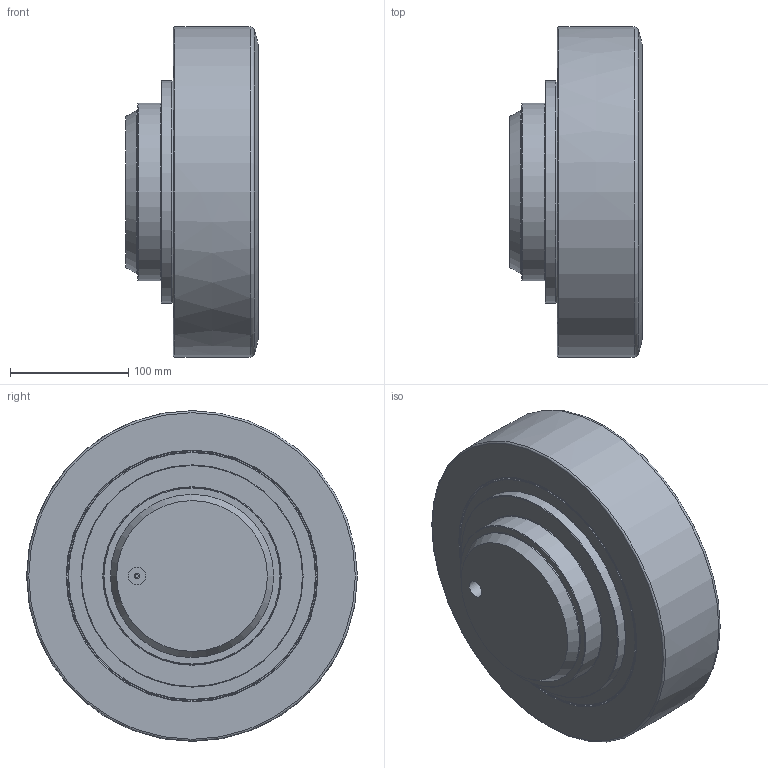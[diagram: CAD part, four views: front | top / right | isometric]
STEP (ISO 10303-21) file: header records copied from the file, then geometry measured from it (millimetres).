
FILE_DESCRIPTION(/* description */ ('-','CAx-IF Rec.Pracs.---Representation and Presentation of Product Manufacturing Information (PMI)---4.0---2014-10-13'),/* implementation_level */ '2;1');
FILE_NAME(/* name */ 'c:\temp\a4faba39-c5c0-4c50-be4c-a4736db84549\7e2a1df1-60c1-45a2-911d-ea8ddbe5befc.stp',/* time_stamp */ '2020-04-01T16:10:24+02:00',/* author */ ('-'),/* organization */ ('NTI CADcenter A/S'),/* preprocessor_version */ 'ST-DEVELOPER v18',/* originating_system */ 'Autodesk Inventor 2020',/* authorisation */ '-');
FILE_SCHEMA (('AP242_MANAGED_MODEL_BASED_3D_ENGINEERING_MIM_LF { 1 0 10303 442 1 1 4 }'));
Length unit declared in the file: millimetre
Products named in the file (1): MR 280.0410_Kontur
Bounding box: 112 x 279.97 x 280 mm (x, y, z)
Volume: 5028428.2 mm3; surface area: 436324.4 mm2
Topology: 1 solids, 1 shells, 641 faces, 2231 edges, 1187 vertices
Faces by surface type: plane 409, cylinder 201, cone 22, torus 8, bspline 1
Full cylindrical faces by diameter (mm): 2.5 x1, 4 x2, 4.917 x1, 15 x1, 19.5 x6, 138 x1, 150 x1, 173 x1, 188 x1, 197 x4, 210 x4, 212 x4
Entity records: 25180 total; most frequent: DIRECTION 5192, ORIENTED_EDGE 4460, CARTESIAN_POINT 4362, AXIS2_PLACEMENT_3D 2345, EDGE_CURVE 2230, CIRCLE 1704, VERTEX_POINT 1187, EDGE_LOOP 673
